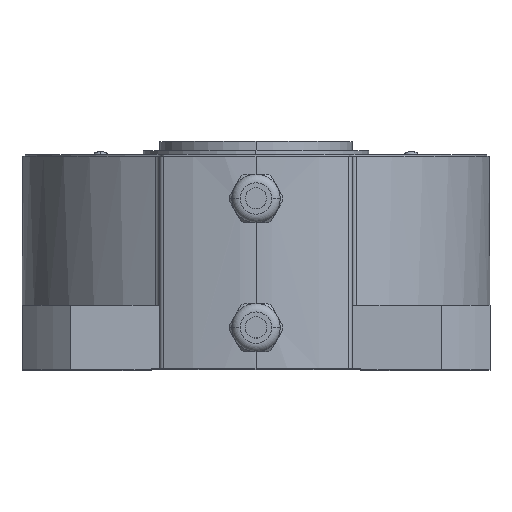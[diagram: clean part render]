
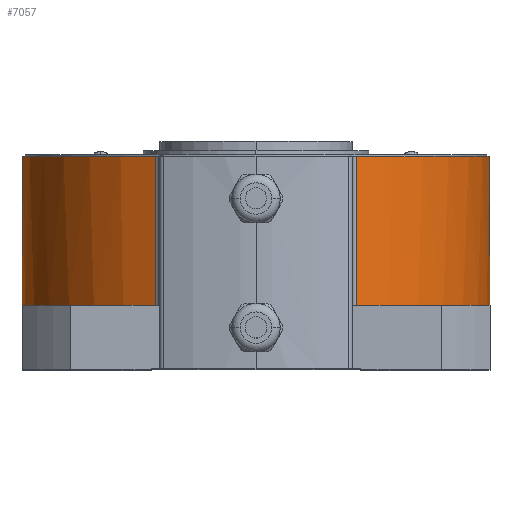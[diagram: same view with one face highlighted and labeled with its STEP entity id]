
A CAD part, top view. The second image highlights one B-rep face of the part: STEP entity #7057.
In plain terms, the highlighted cylindrical face has radius 72.5 mm (diameter 145 mm), a partial arc.
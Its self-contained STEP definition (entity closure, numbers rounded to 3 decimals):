
#377 = DIRECTION ( 'NONE',  ( 0., 0., 1. ) ) ;
#749 = CIRCLE ( 'NONE', #7842, 72.5 ) ;
#1422 = ORIENTED_EDGE ( 'NONE', *, *, #19833, .T. ) ;
#1465 = ORIENTED_EDGE ( 'NONE', *, *, #11198, .T. ) ;
#1737 = CARTESIAN_POINT ( 'NONE',  ( 0., -46.2, 0. ) ) ;
#1878 = VERTEX_POINT ( 'NONE', #20699 ) ;
#2926 = VERTEX_POINT ( 'NONE', #2965 ) ;
#2965 = CARTESIAN_POINT ( 'NONE',  ( -31.141, -46.2, 65.471 ) ) ;
#3118 = CARTESIAN_POINT ( 'NONE',  ( 0., -46.2, 0. ) ) ;
#3766 = DIRECTION ( 'NONE',  ( 0., 1., 0. ) ) ;
#3877 = CYLINDRICAL_SURFACE ( 'NONE', #9429, 72.5 ) ;
#4408 = DIRECTION ( 'NONE',  ( 0., 0., 1. ) ) ;
#4577 = CIRCLE ( 'NONE', #20287, 72.5 ) ;
#4639 = VECTOR ( 'NONE', #23026, 1000. ) ;
#4690 = CARTESIAN_POINT ( 'NONE',  ( 0., -46.2, 0. ) ) ;
#4778 = ORIENTED_EDGE ( 'NONE', *, *, #11894, .F. ) ;
#4801 = VERTEX_POINT ( 'NONE', #22802 ) ;
#4933 = DIRECTION ( 'NONE',  ( 0., 1., 0. ) ) ;
#5746 = DIRECTION ( 'NONE',  ( 0., 1., 0. ) ) ;
#6563 = DIRECTION ( 'NONE',  ( 0., 0., 1. ) ) ;
#7057 = ADVANCED_FACE ( 'NONE', ( #14130 ), #3877, .T. ) ;
#7842 = AXIS2_PLACEMENT_3D ( 'NONE', #3118, #10050, #4408 ) ;
#8499 = ORIENTED_EDGE ( 'NONE', *, *, #18023, .T. ) ;
#8633 = CARTESIAN_POINT ( 'NONE',  ( 72.5, -46.2, 0. ) ) ;
#9163 = CARTESIAN_POINT ( 'NONE',  ( 0., 0., 0. ) ) ;
#9169 = CARTESIAN_POINT ( 'NONE',  ( 0., -46.2, 0. ) ) ;
#9429 = AXIS2_PLACEMENT_3D ( 'NONE', #21257, #18193, #19535 ) ;
#9697 = ORIENTED_EDGE ( 'NONE', *, *, #17020, .T. ) ;
#10050 = DIRECTION ( 'NONE',  ( 0., 1., 0. ) ) ;
#10132 = CIRCLE ( 'NONE', #10527, 72.5 ) ;
#10181 = DIRECTION ( 'NONE',  ( 0., 1., 0. ) ) ;
#10303 = CARTESIAN_POINT ( 'NONE',  ( 31.141, -46.2, 65.471 ) ) ;
#10328 = ORIENTED_EDGE ( 'NONE', *, *, #12443, .T. ) ;
#10527 = AXIS2_PLACEMENT_3D ( 'NONE', #4690, #4933, #6563 ) ;
#11198 = EDGE_CURVE ( 'NONE', #2926, #1878, #12745, .T. ) ;
#11894 = EDGE_CURVE ( 'NONE', #4801, #1878, #21212, .T. ) ;
#12443 = EDGE_CURVE ( 'NONE', #22134, #12820, #15623, .T. ) ;
#12745 = LINE ( 'NONE', #18036, #4639 ) ;
#12820 = VERTEX_POINT ( 'NONE', #13259 ) ;
#13259 = CARTESIAN_POINT ( 'NONE',  ( -72.5, -46.2, 0. ) ) ;
#14049 = DIRECTION ( 'NONE',  ( 0., 0., 1. ) ) ;
#14130 = FACE_OUTER_BOUND ( 'NONE', #16388, .T. ) ;
#14314 = CARTESIAN_POINT ( 'NONE',  ( 0., -46.2, -72.5 ) ) ;
#14426 = LINE ( 'NONE', #16178, #21780 ) ;
#15229 = AXIS2_PLACEMENT_3D ( 'NONE', #9163, #5746, #377 ) ;
#15623 = CIRCLE ( 'NONE', #18648, 72.5 ) ;
#15647 = VERTEX_POINT ( 'NONE', #10303 ) ;
#16178 = CARTESIAN_POINT ( 'NONE',  ( 31.141, -46.2, 65.471 ) ) ;
#16388 = EDGE_LOOP ( 'NONE', ( #4778, #20600, #8499, #9697, #10328, #1422, #1465 ) ) ;
#17020 = EDGE_CURVE ( 'NONE', #17113, #22134, #749, .T. ) ;
#17113 = VERTEX_POINT ( 'NONE', #8633 ) ;
#18023 = EDGE_CURVE ( 'NONE', #15647, #17113, #10132, .T. ) ;
#18036 = CARTESIAN_POINT ( 'NONE',  ( -31.141, -46.2, 65.471 ) ) ;
#18193 = DIRECTION ( 'NONE',  ( 0., 1., 0. ) ) ;
#18648 = AXIS2_PLACEMENT_3D ( 'NONE', #1737, #10181, #14049 ) ;
#18849 = EDGE_CURVE ( 'NONE', #4801, #15647, #14426, .T. ) ;
#19535 = DIRECTION ( 'NONE',  ( 0., 0., 1. ) ) ;
#19833 = EDGE_CURVE ( 'NONE', #12820, #2926, #4577, .T. ) ;
#20041 = DIRECTION ( 'NONE',  ( 0., -1., 0. ) ) ;
#20068 = DIRECTION ( 'NONE',  ( 0., 0., 1. ) ) ;
#20287 = AXIS2_PLACEMENT_3D ( 'NONE', #9169, #3766, #20068 ) ;
#20600 = ORIENTED_EDGE ( 'NONE', *, *, #18849, .T. ) ;
#20699 = CARTESIAN_POINT ( 'NONE',  ( -31.141, 0., 65.471 ) ) ;
#21212 = CIRCLE ( 'NONE', #15229, 72.5 ) ;
#21257 = CARTESIAN_POINT ( 'NONE',  ( 0., -46.2, 0. ) ) ;
#21780 = VECTOR ( 'NONE', #20041, 1000. ) ;
#22134 = VERTEX_POINT ( 'NONE', #14314 ) ;
#22802 = CARTESIAN_POINT ( 'NONE',  ( 31.141, 0., 65.471 ) ) ;
#23026 = DIRECTION ( 'NONE',  ( 0., 1., 0. ) ) ;
